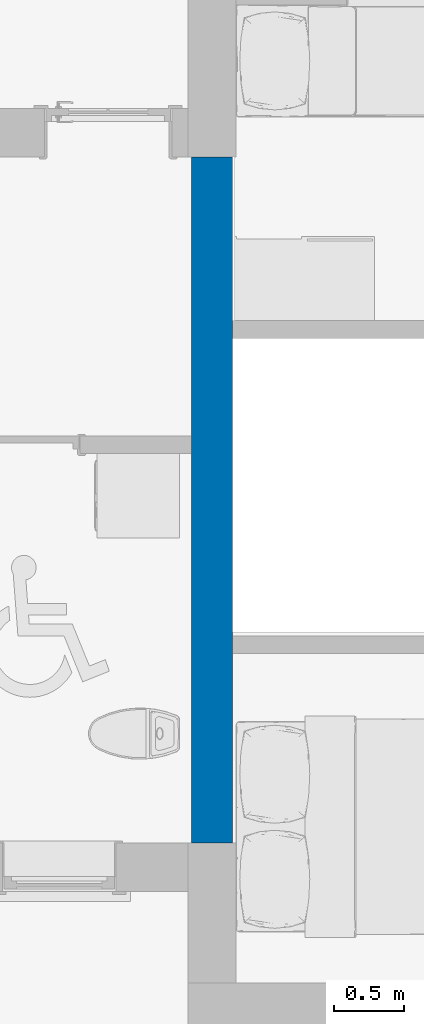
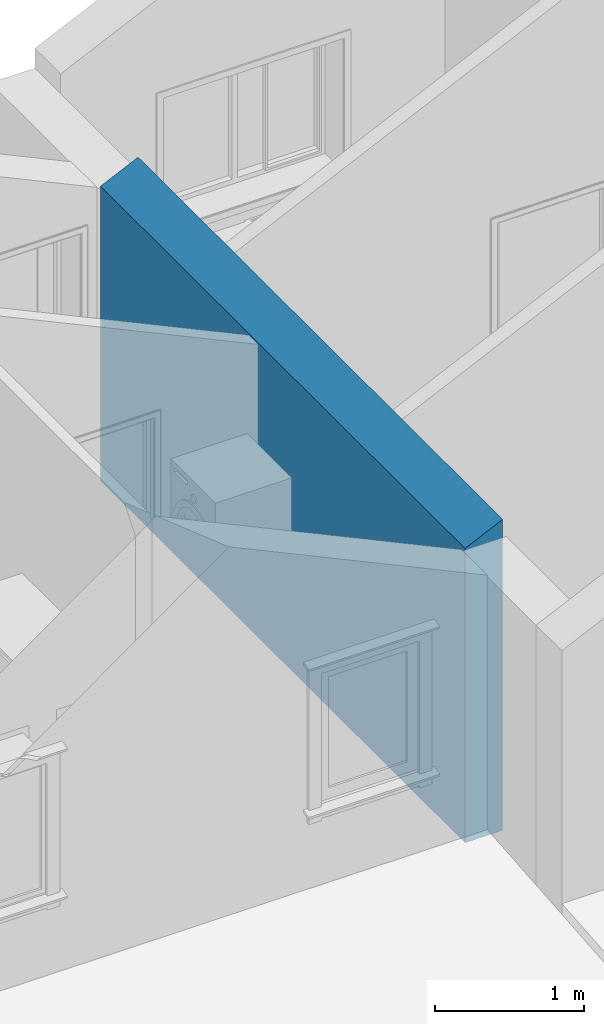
# One storey, part 10 of 44: 1 wall.
"""IFC2X3 building model written with IfcOpenShell, lengths in millimetres."""

from ifc_helpers import new_model, entity, si_unit, converted_unit, direction, frame, frame_2d, origin, place, context, subcontext, project, spatial, polyline, rectangle, extrude, clip, bounded_halfspace, material, layer, layer_set, layer_usage, type_object, element, save


model = new_model("IFC2X3")

# Units and contexts
model_context = context("Model", 3, precision=0.01, world=origin(), true_north=direction((0.0, 1.0)))
body_context = subcontext(model_context, "Body", "Model", "MODEL_VIEW")
ifc_project = project(units=[si_unit("LENGTHUNIT", "METRE", prefix="MILLI"), si_unit("AREAUNIT", "SQUARE_METRE"), si_unit("VOLUMEUNIT", "CUBIC_METRE"), converted_unit("PLANEANGLEUNIT", "DEGREE", entity("IfcPlaneAngleMeasure", 0.017453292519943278), si_unit("PLANEANGLEUNIT", "RADIAN"), dimensions=[0, 0, 0, 0, 0, 0, 0])], contexts=[model_context])

# Site, building, storey
site_placement = place(None, origin())
site = spatial("IfcSite", under=ifc_project, at=site_placement, Name="Default", CompositionType="ELEMENT")
building_placement = place(site_placement, origin())
building = spatial("IfcBuilding", under=site, at=building_placement, CompositionType="ELEMENT")
storey_placement = place(building_placement, frame((0.0, 0.0, 2681.0)))
storey = spatial("IfcBuildingStorey", under=building, at=storey_placement, Name="Et. 2", CompositionType="ELEMENT", Elevation=2681.0)

# Wall
ifc_material_1 = material(Name="Vegg - Gips - Innvendig - Hvit")
ifc_layer_1 = layer(ifc_material_1, 13.000000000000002)
ifc_layer_2 = layer(ifc_material_1, 13.000000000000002)
ifc_material_2 = material(Name="Vegg - Stender - Isolert")
ifc_layer_3 = layer(ifc_material_2, 100.0)
ifc_material_3 = material(Name="Vegg - Luftsjikt")
ifc_layer_4 = layer(ifc_material_3, 40.0)
ifc_layer_5 = layer(ifc_material_2, 100.0)
ifc_layer_6 = layer(ifc_material_1, 13.000000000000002)
ifc_layer_7 = layer(ifc_material_1, 13.000000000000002)
ifc_layer_set = layer_set([ifc_layer_1, ifc_layer_2, ifc_layer_3, ifc_layer_4, ifc_layer_5, ifc_layer_6, ifc_layer_7], Name="Basic Wall:24-GSISIG-26_100_40_100_26")
ifc_layer_usage = layer_usage(ifc_layer_set, "AXIS2", "NEGATIVE", 146.00000000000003)
wall_type = type_object("IfcWallType", Name="Basic Wall:24-GSISIG-26_100_40_100_26", PredefinedType="STANDARD", material=ifc_layer_set)
wall_placement = place(storey_placement, frame((22178.00958675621, 10754.180957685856, 0.0), z_axis=(0.0, 0.0, 1.0), x_axis=(0.0, 1.0, 0.0)))
element("IfcWallStandardCase", 1, at=wall_placement, inside=storey, type_object=wall_type, material=ifc_layer_usage, Name="Basic Wall:24-GSISIG-26_100_40_100_26", context=body_context, shape_type="Clipping", body=[
    clip(extrude(rectangle(XDim=4895.000000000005, YDim=292.00000000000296, at=frame_2d((2447.5000000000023, 5.115907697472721e-13), x_axis=(-1.0, 0.0))), origin(), (0.0, 0.0, 1.0), 2548.752142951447), bounded_halfspace(frame((0.0, -146.0, 2548.7521429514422), z_axis=(0.0, 0.42261826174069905, 0.9063077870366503), x_axis=(-1.0, 0.0, 0.0)), False, frame((0.0, -146.0, 2548.7521429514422)), polyline([(0.0, 0.0), (1351.8777614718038, 0.0), (1477.8777614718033, 0.0), (3602.0, 0.0), (3728.0, 0.0), (4895.0, 0.0), (4895.0, 292.0), (0.0, 292.0), (0.0, 0.0)]))),
])

save(model, "model.ifc")
